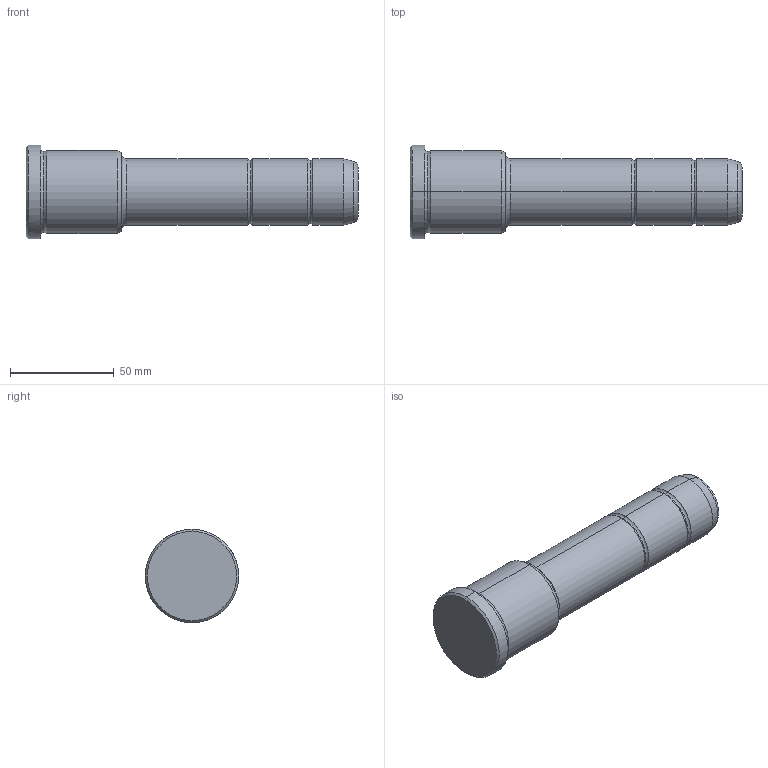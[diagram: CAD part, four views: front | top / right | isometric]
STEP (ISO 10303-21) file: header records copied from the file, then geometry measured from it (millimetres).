
FILE_DESCRIPTION(('CATIA V5 STEP Exchange'),'2;1');
FILE_NAME('C:\Users\Utente\Desktop\IO LAVORO\3D X SITO CF\X SITO\PLASTICA\351\351-32X46X160.stp','2021-09-07T12:39:55+00:00',('none'),('none'),'CATIA Version 5 Release 20 GA (IN-10)','CATIA V5 STEP AP203','none');
FILE_SCHEMA(('CONFIG_CONTROL_DESIGN'));
Length unit declared in the file: millimetre
Products named in the file (1): 351-32X46X160
Bounding box: 160 x 45 x 45 mm (x, y, z)
Volume: 150620.8 mm3; surface area: 20102.6 mm2
Topology: 1 solids, 1 shells, 36 faces, 102 edges, 70 vertices
Faces by surface type: torus 16, cylinder 10, cone 6, plane 4
Entity records: 1292 total; most frequent: CARTESIAN_POINT 321, ORIENTED_EDGE 204, DIRECTION 166, AXIS2_PLACEMENT_3D 115, EDGE_CURVE 102, CIRCLE 78, VERTEX_POINT 70, EDGE_LOOP 38
